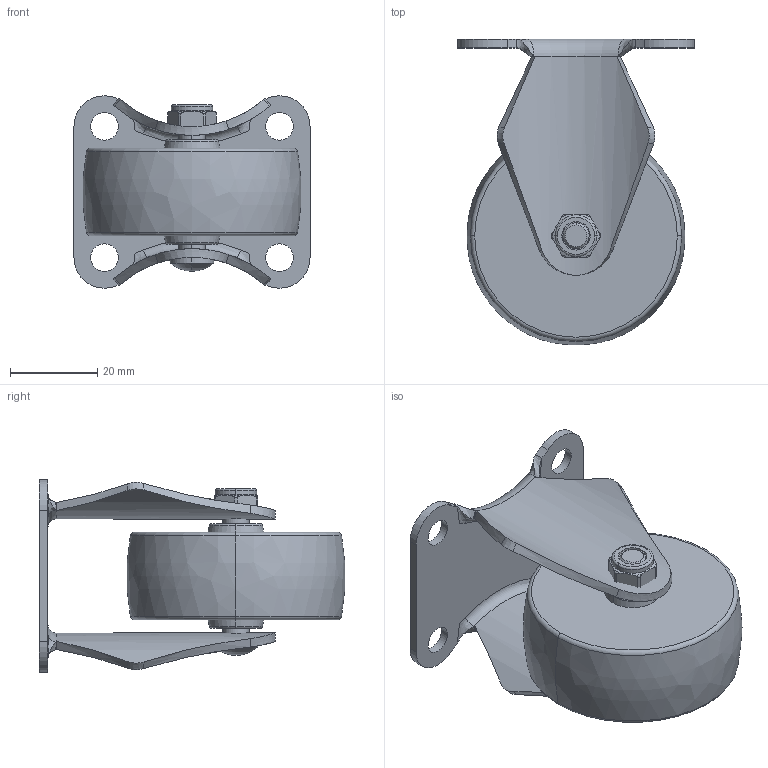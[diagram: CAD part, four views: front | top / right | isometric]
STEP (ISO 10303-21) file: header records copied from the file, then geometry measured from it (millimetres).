
FILE_DESCRIPTION((''),'2;1');
FILE_NAME('261015-2615-83_ASM','2019-12-13T',('L'),(''),'PRO/ENGINEER BY PARAMETRIC TECHNOLOGY CORPORATION, 2010280','PRO/ENGINEER BY PARAMETRIC TECHNOLOGY CORPORATION, 2010280','');
FILE_SCHEMA(('CONFIG_CONTROL_DESIGN'));
Length unit declared in the file: millimetre
Products named in the file (5): 26102; 262-83; 2610-020; 2610-031; 261015-2615-83_ASM
Assembly tree (4 placements, depth 2):
  261015-2615-83_ASM
    26102
    262-83
    2610-020
    2610-031
Bounding box: 54 x 69.9 x 44 mm (x, y, z)
Volume: 48420.1 mm3; surface area: 18369.5 mm2
Topology: 4 solids, 4 shells, 138 faces, 340 edges, 213 vertices
Faces by surface type: cylinder 40, bspline 32, plane 28, torus 20, cone 16, sphere 2
Entity records: 5643 total; most frequent: CARTESIAN_POINT 2348, ORIENTED_EDGE 676, DIRECTION 652, EDGE_CURVE 338, AXIS2_PLACEMENT_3D 275, VERTEX_POINT 213, CIRCLE 160, EDGE_LOOP 159
